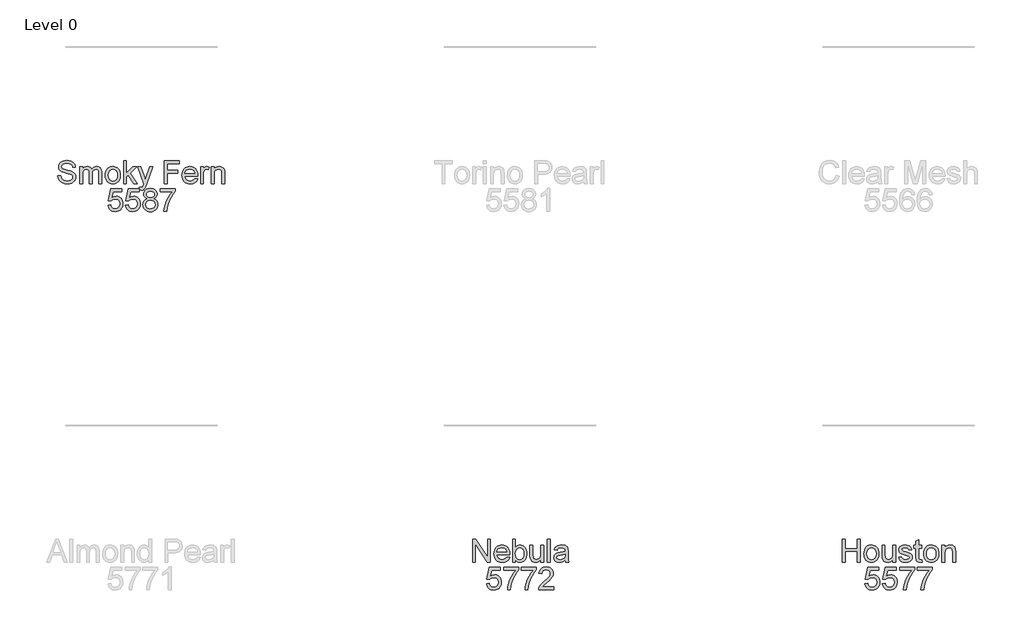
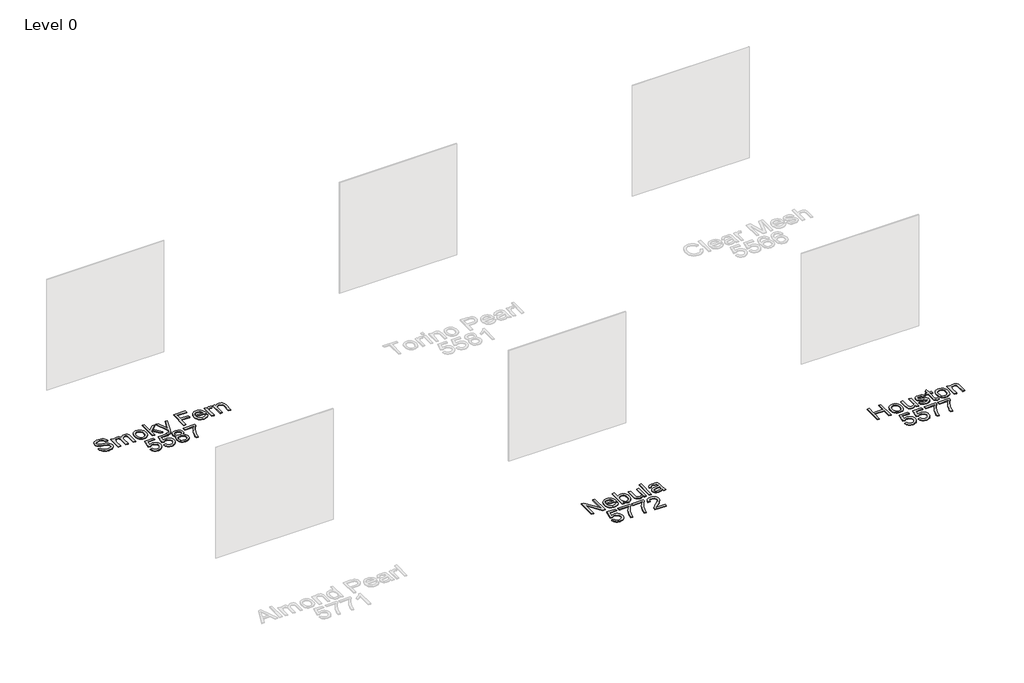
# One storey, part 6 of 8: 3 proxies.
"""IFC4 building model written with IfcOpenShell, lengths in millimetres."""

import ifcopenshell
import ifcopenshell.guid

model = None  # the IFC model being written
_history = None  # IfcOwnerHistory: only IFC2X3 demands one
_inside = {}  # id of a spatial element -> (the spatial element, [elements in it])
_under = {}  # id of a project, library or spatial element -> (it, [spatial elements below it])
_declared = {}  # id of a project -> (the project, [libraries it declares])
_typed = {}  # id of a type object -> (the type object, [elements of that type])
_made_of = {}  # id of a material, layer set ... -> (it, [elements and type objects made of it])


def new_model(schema):
    """Start an empty IFC model of exactly this schema.

    Asked for "IFC4X3", IfcOpenShell would pick the latest addendum, in which some entities
    have other attributes; the version numbers below select the first issue.
    IFC2X3 requires an IfcOwnerHistory on every rooted entity: one is made here for all.
    """
    global model, _history
    if schema == "IFC4X3":
        model = ifcopenshell.file(schema_version=(4, 3, 0, 0))
    else:
        model = ifcopenshell.file(schema=schema)
    _inside.clear()
    _under.clear()
    _declared.clear()
    _typed.clear()
    _made_of.clear()
    _history = None
    if model.schema == "IFC2X3":
        org = make("IfcOrganization", Name="unknown")
        user = make(
            "IfcPersonAndOrganization",
            ThePerson=make("IfcPerson", FamilyName="unknown"),
            TheOrganization=org,
        )
        app = make(
            "IfcApplication",
            ApplicationDeveloper=org,
            Version="unknown",
            ApplicationFullName="unknown",
            ApplicationIdentifier="unknown",
        )
        _history = make(
            "IfcOwnerHistory",
            OwningUser=user,
            OwningApplication=app,
            ChangeAction="ADDED",
            CreationDate=0,
        )
    return model


def make(cls, **values):
    """One entity of the class cls with the attributes given. An attribute that is None is left unset."""
    return model.create_entity(
        cls, **{name: value for name, value in values.items() if value is not None}
    )


def rooted(cls, **values):
    """An entity with a GlobalId (a new one), such as an element, a storey or a relation."""
    return make(cls, GlobalId=ifcopenshell.guid.new(), OwnerHistory=_history, **values)


def si_unit(unit_type, name, prefix=None):
    """IfcSIUnit, for example si_unit("LENGTHUNIT", "METRE", prefix="MILLI")."""
    return make("IfcSIUnit", UnitType=unit_type, Prefix=prefix, Name=name)


def assignment(units):
    """IfcUnitAssignment: the units of a project."""
    return None if units is None else make("IfcUnitAssignment", Units=units)


def point(xyz):
    """IfcCartesianPoint."""
    return None if xyz is None else make("IfcCartesianPoint", Coordinates=xyz)


def direction(xyz):
    """IfcDirection."""
    return None if xyz is None else make("IfcDirection", DirectionRatios=xyz)


def frame(location, z_axis=None, x_axis=None):
    """IfcAxis2Placement3D, a coordinate frame: its origin and axes. An axis left out is left unset."""
    return make(
        "IfcAxis2Placement3D",
        Location=point(location),
        Axis=direction(z_axis),
        RefDirection=direction(x_axis),
    )


def origin():
    """The frame at (0, 0, 0) with its axes left unset."""
    return frame((0.0, 0.0, 0.0))


def origin_with_axes():
    """The frame at (0, 0, 0) with the z axis (0, 0, 1) and the x axis (1, 0, 0) written out."""
    return frame((0.0, 0.0, 0.0), z_axis=(0.0, 0.0, 1.0), x_axis=(1.0, 0.0, 0.0))


def place(relative_to, where):
    """IfcLocalPlacement: puts the frame where relative to a parent placement (None: the world)."""
    return make(
        "IfcLocalPlacement", PlacementRelTo=relative_to, RelativePlacement=where
    )


def context(
    kind, dimensions, precision=None, world=None, true_north=None, identifier=None
):
    """IfcGeometricRepresentationContext, for example the 3D "Model" context."""
    return make(
        "IfcGeometricRepresentationContext",
        ContextIdentifier=identifier,
        ContextType=kind,
        CoordinateSpaceDimension=dimensions,
        Precision=precision,
        WorldCoordinateSystem=world,
        TrueNorth=true_north,
    )


def project(units=None, contexts=None):
    """IfcProject with its units and contexts."""
    return rooted(
        "IfcProject",
        Name="project",
        RepresentationContexts=contexts,
        UnitsInContext=assignment(units),
    )


def spatial(cls, under=None, at=None, **own):
    """A site, building, storey or space (cls), placed at a placement, below another one or the project."""
    s = rooted(cls, ObjectPlacement=at, **own)
    if under is not None:
        _under.setdefault(under.id(), (under, []))[1].append(s)
    return s


def polyline(points):
    """IfcPolyline through the points."""
    return make("IfcPolyline", Points=[point(p) for p in points])


def outline(outer, holes=None, kind="AREA"):
    """IfcArbitraryClosedProfileDef: a profile drawn as a closed curve; with holes, ...WithVoids."""
    if holes is None:
        return make("IfcArbitraryClosedProfileDef", ProfileType=kind, OuterCurve=outer)
    return make(
        "IfcArbitraryProfileDefWithVoids",
        ProfileType=kind,
        OuterCurve=outer,
        InnerCurves=holes,
    )


def extrude(swept, where, along, depth):
    """IfcExtrudedAreaSolid: the profile swept, set in the frame where, extruded along a direction by depth."""
    return make(
        "IfcExtrudedAreaSolid",
        SweptArea=swept,
        Position=where,
        ExtrudedDirection=direction(along),
        Depth=depth,
    )


def shape(context_of_items, identifier, shape_type, items):
    """IfcShapeRepresentation: the items that make up one representation, for example the "Body"."""
    return make(
        "IfcShapeRepresentation",
        ContextOfItems=context_of_items,
        RepresentationIdentifier=identifier,
        RepresentationType=shape_type,
        Items=items,
    )


def made_of(thing, what):
    """Note that an element or type object is made of a material, layer set ...; save() writes the relation."""
    if what is not None:
        _made_of.setdefault(what.id(), (what, []))[1].append(thing)
    return thing


def element(
    cls,
    number,
    at=None,
    inside=None,
    cuts=None,
    type_object=None,
    material=None,
    context=None,
    identifier="Body",
    shape_type=None,
    held_by="IfcProductDefinitionShape",
    body=None,
    shapes=None,
    **own,
):
    """One element of the class cls, such as IfcWall. Its Tag is "e" and its number.

    at: its placement. inside: the storey or other place that contains it. cuts: it is an
    opening in that element (IfcRelVoidsElement). A single representation is given by context,
    identifier, shape_type and body (its items); several are given by shapes. held_by: the class
    of the entity that holds the representations. save() writes the other relations.
    """
    e = rooted(cls, Tag="e%d" % number, ObjectPlacement=at, **own)
    if body is not None:
        shapes = [shape(context, identifier, shape_type, body)]
    if shapes is not None:
        e.Representation = make(held_by, Representations=shapes)
    if inside is not None:
        _inside.setdefault(inside.id(), (inside, []))[1].append(e)
    if cuts is not None:
        rooted(
            "IfcRelVoidsElement", RelatingBuildingElement=cuts, RelatedOpeningElement=e
        )
    if type_object is not None:
        _typed.setdefault(type_object.id(), (type_object, []))[1].append(e)
    return made_of(e, material)


def aggregate(whole, parts):
    """IfcRelAggregates: a whole, such as a stair, and the parts it consists of."""
    return rooted("IfcRelAggregates", RelatingObject=whole, RelatedObjects=parts)


def save(model, path):
    """Write the relations noted so far, then the file.

    IfcRelAggregates (storeys below a building ...), IfcRelContainedInSpatialStructure (elements
    in a storey), IfcRelDefinesByType, IfcRelAssociatesMaterial and IfcRelDeclares: one each for
    every whole, place, type object, material and project.
    """
    for whole, parts in _under.values():
        aggregate(whole, parts)
    for where, things in _inside.values():
        rooted(
            "IfcRelContainedInSpatialStructure",
            RelatedElements=things,
            RelatingStructure=where,
        )
    for kind, things in _typed.values():
        rooted("IfcRelDefinesByType", RelatedObjects=things, RelatingType=kind)
    for what, things in _made_of.values():
        rooted("IfcRelAssociatesMaterial", RelatedObjects=things, RelatingMaterial=what)
    for by, libraries in _declared.values():
        rooted("IfcRelDeclares", RelatingContext=by, RelatedDefinitions=libraries)
    model.write(path)


model = new_model("IFC4")

# Units and contexts
model_context = context("Model", 3, world=origin())
ifc_project = project(units=[si_unit("LENGTHUNIT", "METRE", prefix="MILLI")], contexts=[model_context])

# Site, building, storey
site = spatial("IfcSite", under=ifc_project)
building = spatial("IfcBuilding", under=site)
storey = spatial("IfcBuildingStorey", under=building, Name="Level 0", Elevation=0.0)

# Proxies
placement = place(None, origin())
element("IfcBuildingElementProxy", 1, Name="300mm Arial", ObjectType="300mm Arial", at=placement, inside=storey, context=model_context, shape_type="SweptSolid", body=[
    extrude(outline(polyline([(9805.3373966, -12002.860494), (9805.3373966, -11701.4915635), (9843.008513, -11701.4915635), (9843.008513, -11823.9226915), (10003.1107573, -11823.9226915), (10003.1107573, -11701.4915635), (10040.7818736, -11701.4915635), (10040.7818736, -12002.860494), (10003.1107573, -12002.860494), (10003.1107573, -11861.5938078), (9843.008513, -11861.5938078), (9843.008513, -12002.860494), (9805.3373966, -12002.860494)])), origin_with_axes(), (0.0, 0.0, 1.0), 10.0),
    extrude(outline(polyline([(10092.5796585, -11892.2015898), (10094.616805, -11863.5389839), (10100.7282447, -11838.8403064), (10110.9139774, -11818.1055575), (10125.1740033, -11801.334737), (10139.5305981, -11790.6155754), (10155.3771151, -11782.9590314), (10172.7135541, -11778.3651049), (10191.5399152, -11776.8337961), (10212.3229486, -11778.698498), (10231.1148208, -11784.2926036), (10247.9155317, -11793.6161129), (10262.7250813, -11806.669026), (10274.8123041, -11823.0098843), (10283.4460346, -11842.1972296), (10288.626273, -11864.2310619), (10290.3530191, -11889.1113811), (10287.2995985, -11927.1687735), (10278.1393368, -11956.1394806), (10263.1389485, -11977.8353213), (10242.5651479, -11994.0681143), (10218.1285864, -12004.1940662), (10191.5399152, -12007.5693835), (10170.4533791, -12005.7115794), (10151.486763, -12000.1381672), (10134.6400668, -11990.8491468), (10119.9132907, -11977.8445183), (10107.9548266, -11961.3450108), (10099.4130665, -11941.5713536), (10094.2880105, -11918.5235466), (10092.5796585, -11892.2015898)]), holes=[polyline([(10130.2507748, -11892.1280134), (10134.6101764, -11926.2214773), (10147.6883814, -11950.5108861), (10167.3700681, -11965.0514219), (10191.5399152, -11969.8982672), (10215.5993977, -11965.0238308), (10235.2442962, -11950.4005215), (10248.3225011, -11925.789216), (10252.6819028, -11890.950791), (10248.29491, -11857.8506085), (10235.1339316, -11833.8922936), (10215.4614419, -11819.3517577), (10191.5399152, -11814.5049125), (10167.3700681, -11819.3333636), (10147.6883814, -11833.8187172), (10134.6101764, -11858.0529436), (10130.2507748, -11892.1280134)])]), origin_with_axes(), (0.0, 0.0, 1.0), 10.0),
    extrude(outline(polyline([(10473.9997111, -12002.860494), (10473.9997111, -11964.8214957), (10460.3696832, -11983.5236966), (10444.4955751, -11996.8824116), (10426.3773868, -12004.8976405), (10406.0151184, -12007.5693835), (10387.6670039, -12005.6931853), (10370.5880822, -12000.0645908), (10356.2590785, -11991.6033049), (10346.1607178, -11981.2290327), (10334.9403169, -11953.4907302), (10332.7330249, -11918.4683643), (10332.7330249, -11781.5426857), (10370.4041412, -11781.5426857), (10370.4041412, -11900.7364521), (10372.6850096, -11939.1433324), (10378.1756484, -11951.9548229), (10387.5842304, -11961.6944987), (10400.2853563, -11967.8473251), (10415.6536266, -11969.8982672), (10431.9048138, -11967.8013398), (10447.1075372, -11961.5105577), (10459.6431162, -11951.605335), (10467.89287, -11938.6650858), (10472.4730008, -11920.9423707), (10473.9997111, -11896.6897502), (10473.9997111, -11781.5426857), (10511.6708274, -11781.5426857), (10511.6708274, -12002.860494), (10473.9997111, -12002.860494)])), origin_with_axes(), (0.0, 0.0, 1.0), 10.0),
    extrude(outline(polyline([(10549.3419437, -11936.9360404), (10587.01306, -11932.2271509), (10592.9543542, -11948.3403823), (10604.4506666, -11960.1861825), (10621.5755734, -11967.470246), (10644.4026512, -11969.8982672), (10666.9538176, -11967.6725811), (10682.8095315, -11960.9955229), (10692.1905224, -11951.3202265), (10695.3175194, -11940.0998256), (10692.1721283, -11930.4981055), (10682.7359551, -11923.1772538), (10643.9611929, -11912.4350996), (10587.2337892, -11894.0042116), (10572.8771943, -11884.7427824), (10562.4753309, -11872.4831149), (10556.1569577, -11858.0069584), (10554.0508332, -11842.0960621), (10555.7430904, -11827.5003439), (10560.8198619, -11814.0266659), (10568.8212953, -11802.2084568), (10579.2875381, -11792.5791455), (10603.236656, -11781.4323211), (10635.6470598, -11776.8337961), (10660.1663947, -11778.6824032), (10681.4851564, -11784.2282242), (10698.6284573, -11792.9286334), (10710.6214104, -11804.2410048), (10718.5676615, -11819.0022698), (10723.5708566, -11838.0493601), (10685.8997403, -11842.7582497), (10681.1448655, -11830.9032524), (10671.7362835, -11821.972917), (10657.5820237, -11816.3719136), (10638.5901157, -11814.5049125), (10616.9586544, -11816.2891401), (10602.5376802, -11821.6418232), (10594.4258822, -11829.3673451), (10591.7219495, -11838.2700893), (10596.2101099, -11849.2329728), (10610.2632021, -11857.5471059), (10642.7103941, -11865.5669334), (10698.0030579, -11883.2988455), (10712.6079732, -11891.7785255), (10723.6812212, -11903.3852025), (10730.6617821, -11918.1556646), (10732.9886357, -11936.1267001), (10730.2571119, -11954.7047408), (10722.0625404, -11972.1791356), (10708.7176211, -11987.1795239), (10690.5350534, -11998.3355454), (10668.5724983, -12005.260924), (10643.8876165, -12007.5693835), (10605.9038005, -12003.1180114), (10578.1838921, -11989.763895), (10559.6794278, -11967.654187), (10549.3419437, -11936.9360404)])), origin_with_axes(), (0.0, 0.0, 1.0), 10.0),
    extrude(outline(polyline([(10855.4197637, -11971.4433716), (10860.1286532, -12003.96414), (10831.9488924, -12007.5693835), (10813.8674923, -12006.005885), (10800.3846172, -12001.3153896), (10790.8564735, -11994.0865084), (10784.6392678, -11984.9078526), (10781.2179653, -11969.1441091), (10780.0775311, -11942.1599648), (10780.0775311, -11819.213802), (10751.8241938, -11819.213802), (10751.8241938, -11781.5426857), (10780.0775311, -11781.5426857), (10780.0775311, -11727.758338), (10817.7486474, -11705.6118419), (10817.7486474, -11781.5426857), (10855.4197637, -11781.5426857), (10855.4197637, -11819.213802), (10817.7486474, -11819.213802), (10817.7486474, -11941.0563188), (10819.7352101, -11960.4804881), (10826.1731451, -11967.3598814), (10839.0122267, -11969.8982672), (10855.4197637, -11971.4433716)])), origin_with_axes(), (0.0, 0.0, 1.0), 10.0),
    extrude(outline(polyline([(10883.6731009, -11892.2015898), (10885.7102475, -11863.5389839), (10891.8216871, -11838.8403064), (10902.0074198, -11818.1055575), (10916.2674457, -11801.334737), (10930.6240405, -11790.6155754), (10946.4705575, -11782.9590314), (10963.8069965, -11778.3651049), (10982.6333576, -11776.8337961), (11003.4163911, -11778.698498), (11022.2082632, -11784.2926036), (11039.0089741, -11793.6161129), (11053.8185237, -11806.669026), (11065.9057465, -11823.0098843), (11074.5394771, -11842.1972296), (11079.7197154, -11864.2310619), (11081.4464615, -11889.1113811), (11078.393041, -11927.1687735), (11069.2327793, -11956.1394806), (11054.2323909, -11977.8353213), (11033.6585903, -11994.0681143), (11009.2220288, -12004.1940662), (10982.6333576, -12007.5693835), (10961.5468215, -12005.7115794), (10942.5802054, -12000.1381672), (10925.7335093, -11990.8491468), (10911.0067332, -11977.8445183), (10899.048269, -11961.3450108), (10890.506509, -11941.5713536), (10885.3814529, -11918.5235466), (10883.6731009, -11892.2015898)]), holes=[polyline([(10921.3442172, -11892.1280134), (10925.7036189, -11926.2214773), (10938.7818238, -11950.5108861), (10958.4635105, -11965.0514219), (10982.6333576, -11969.8982672), (11006.6928401, -11965.0238308), (11026.3377386, -11950.4005215), (11039.4159436, -11925.789216), (11043.7753452, -11890.950791), (11039.3883524, -11857.8506085), (11026.227374, -11833.8922936), (11006.5548843, -11819.3517577), (10982.6333576, -11814.5049125), (10958.4635105, -11819.3333636), (10938.7818238, -11833.8187172), (10925.7036189, -11858.0529436), (10921.3442172, -11892.1280134)])]), origin_with_axes(), (0.0, 0.0, 1.0), 10.0),
    extrude(outline(polyline([(11123.8264674, -12002.860494), (11123.8264674, -11781.5426857), (11161.4975837, -11781.5426857), (11161.4975837, -11812.4447733), (11174.5849856, -11796.8649708), (11190.3027439, -11785.7365404), (11208.6508584, -11779.0594822), (11229.6293292, -11776.8337961), (11248.1981729, -11778.6272209), (11265.2035181, -11784.0074951), (11279.385369, -11792.303234), (11289.4837298, -11802.8430532), (11300.777707, -11830.5445674), (11302.7642698, -11866.964885), (11302.7642698, -12002.860494), (11265.0931535, -12002.860494), (11265.0931535, -11872.0416565), (11260.752146, -11838.7115477), (11254.7464724, -11828.7879309), (11245.4114668, -11821.0900002), (11233.4461049, -11816.1511844), (11219.5493625, -11814.5049125), (11197.4856398, -11818.2021265), (11178.6776728, -11829.2937687), (11171.1613838, -11838.3482643), (11165.792606, -11850.7228949), (11161.4975837, -11885.4325611), (11161.4975837, -12002.860494), (11123.8264674, -12002.860494)])), origin_with_axes(), (0.0, 0.0, 1.0), 10.0),
    extrude(outline(polyline([(10106.7063271, -12288.7338254), (10144.3774434, -12284.0249358), (10151.2936249, -12306.6404815), (10163.3601544, -12322.8364863), (10180.5218494, -12332.5761621), (10202.7235278, -12335.8227207), (10229.7260663, -12331.3069693), (10249.959576, -12317.7597148), (10262.5963226, -12296.7444558), (10266.8085714, -12269.8246908), (10262.863037, -12244.4776213), (10251.0264338, -12225.0902402), (10231.2067913, -12212.7845875), (10203.312139, -12208.6827032), (10185.0376009, -12210.3197781), (10170.2395477, -12215.2310027), (10149.0863329, -12232.2271509), (10111.4152166, -12227.5182614), (10144.3774434, -12072.1249066), (10290.3530191, -12072.1249066), (10290.3530191, -12109.7960229), (10174.8380726, -12109.7960229), (10158.7248412, -12192.790201), (10185.6354092, -12176.4562404), (10213.8335641, -12171.0115869), (10232.1793793, -12172.6992456), (10249.030674, -12177.7622215), (10264.387448, -12186.2005148), (10278.2497014, -12198.0141254), (10289.7253204, -12212.4810848), (10297.9221911, -12228.8794248), (10302.8403136, -12247.2091452), (10304.4796877, -12267.470246), (10298.5751817, -12305.1413624), (10291.1945492, -12321.9351754), (10280.8616636, -12337.3678251), (10265.2082847, -12353.1729553), (10246.9429437, -12364.4623341), (10226.0656404, -12371.2359613), (10202.576375, -12373.4938371), (10165.5766434, -12367.6904986), (10149.8979726, -12360.4363255), (10136.1000985, -12350.2804832), (10124.619881, -12337.7288093), (10115.8941799, -12323.2871418), (10106.7063271, -12288.7338254)])), origin_with_axes(), (0.0, 0.0, 1.0), 10.0),
    extrude(outline(polyline([(10337.4419145, -12288.7338254), (10375.1130308, -12284.0249358), (10382.0292123, -12306.6404815), (10394.0957417, -12322.8364863), (10411.2574368, -12332.5761621), (10433.4591152, -12335.8227207), (10460.4616537, -12331.3069693), (10480.6951634, -12317.7597148), (10493.3319099, -12296.7444558), (10497.5441588, -12269.8246908), (10493.5986244, -12244.4776213), (10481.7620212, -12225.0902402), (10461.9423787, -12212.7845875), (10434.0477264, -12208.6827032), (10415.7731883, -12210.3197781), (10400.975135, -12215.2310027), (10379.8219203, -12232.2271509), (10342.150804, -12227.5182614), (10375.1130308, -12072.1249066), (10521.0886065, -12072.1249066), (10521.0886065, -12109.7960229), (10405.57366, -12109.7960229), (10389.4604286, -12192.790201), (10416.3709965, -12176.4562404), (10444.5691515, -12171.0115869), (10462.9149667, -12172.6992456), (10479.7662614, -12177.7622215), (10495.1230354, -12186.2005148), (10508.9852888, -12198.0141254), (10520.4609078, -12212.4810848), (10528.6577785, -12228.8794248), (10533.5759009, -12247.2091452), (10535.2152751, -12267.470246), (10529.3107691, -12305.1413624), (10521.9301365, -12321.9351754), (10511.597251, -12337.3678251), (10495.9438721, -12353.1729553), (10477.678531, -12364.4623341), (10456.8012278, -12371.2359613), (10433.3119624, -12373.4938371), (10396.3122307, -12367.6904986), (10380.63356, -12360.4363255), (10366.8356859, -12350.2804832), (10355.3554684, -12337.7288093), (10346.6297673, -12323.2871418), (10337.4419145, -12288.7338254)])), origin_with_axes(), (0.0, 0.0, 1.0), 10.0),
    extrude(outline(polyline([(10568.1775018, -12109.7960229), (10568.1775018, -12072.1249066), (10765.9508625, -12072.1249066), (10765.9508625, -12102.5855358), (10737.7619046, -12138.2608923), (10709.8488582, -12183.6299393), (10685.2283557, -12234.5540045), (10666.9170294, -12286.8944154), (10657.9407087, -12326.0554538), (10652.9375135, -12368.7849475), (10615.2663972, -12368.7849475), (10619.3406903, -12329.9550029), (10630.2391944, -12283.8042066), (10647.667604, -12234.8850983), (10671.3316133, -12187.7502177), (10698.9595511, -12145.1402856), (10728.2797461, -12109.7960229), (10568.1775018, -12109.7960229)])), origin_with_axes(), (0.0, 0.0, 1.0), 10.0),
    extrude(outline(polyline([(10798.9130892, -12109.7960229), (10798.9130892, -12072.1249066), (10996.6864498, -12072.1249066), (10996.6864498, -12102.5855358), (10968.4974919, -12138.2608923), (10940.5844456, -12183.6299393), (10915.963943, -12234.5540045), (10897.6526167, -12286.8944154), (10888.676296, -12326.0554538), (10883.6731009, -12368.7849475), (10846.0019846, -12368.7849475), (10850.0762777, -12329.9550029), (10860.9747818, -12283.8042066), (10878.4031913, -12234.8850983), (10902.0672007, -12187.7502177), (10929.6951385, -12145.1402856), (10959.0153335, -12109.7960229), (10798.9130892, -12109.7960229)])), origin_with_axes(), (0.0, 0.0, 1.0), 10.0),
])
element("IfcBuildingElementProxy", 2, Name="300mm Arial", ObjectType="300mm Arial", at=placement, inside=storey, context=model_context, shape_type="SweptSolid", body=[
    extrude(outline(polyline([(-554.892653, -6899.2649241), (-517.2215367, -6899.2649241), (-512.8989233, -6920.1698185), (-505.0814309, -6936.9728286), (-492.8861427, -6950.308551), (-475.4301421, -6960.8115819), (-454.0929864, -6967.6265959), (-430.2542331, -6969.8982672), (-409.2665652, -6968.1784189), (-390.8908596, -6963.0188739), (-376.0008358, -6954.8518936), (-365.4702137, -6944.1097394), (-359.2070227, -6931.7764955), (-357.1192924, -6918.8362463), (-358.6827909, -6906.2270909), (-363.3732863, -6895.3285868), (-372.90143, -6886.0303694), (-388.9778732, -6878.222074), (-443.8290787, -6863.837888), (-479.835529, -6854.3189414), (-502.8741389, -6845.2598472), (-521.6269236, -6832.5863125), (-534.9166607, -6817.2272392), (-542.8353206, -6799.5137211), (-545.474874, -6779.7768521), (-542.2099212, -6757.7131294), (-532.4150631, -6737.1393289), (-516.347817, -6719.7017223), (-494.2657002, -6707.0465817), (-467.7598025, -6699.3486509), (-438.4212134, -6696.782674), (-406.636209, -6699.4682126), (-378.8243301, -6707.5248283), (-355.9788582, -6720.7869742), (-339.0930747, -6739.0891034), (-328.4061027, -6761.2907818), (-324.1570657, -6786.2515752), (-361.828182, -6786.2515752), (-368.7443635, -6763.7739853), (-383.1653377, -6747.5503893), (-405.6981099, -6737.7279401), (-436.9496854, -6734.4537903), (-468.9370249, -6737.6911519), (-490.8811859, -6747.4032365), (-503.5731147, -6761.695452), (-507.8037576, -6778.6732061), (-504.8055194, -6793.1493626), (-495.8108046, -6804.7928278), (-474.5472253, -6815.2038882), (-434.300935, -6825.8356779), (-392.7670578, -6835.9340387), (-367.6407175, -6844.7448125), (-346.165606, -6858.4116286), (-331.1836118, -6875.2790181), (-322.382035, -6895.1630399), (-319.4481761, -6917.8797531), (-322.8234934, -6941.102304), (-332.9494453, -6962.9452975), (-349.4121646, -6981.7440675), (-371.797784, -6995.8339479), (-398.717549, -7004.6355246), (-428.7827051, -7007.5693835), (-465.6904662, -7004.4055984), (-496.068322, -6994.9142429), (-520.2657602, -6979.0585289), (-538.6322688, -6956.8016682), (-550.4228868, -6929.6887651), (-554.892653, -6899.2649241)])), origin_with_axes(), (0.0, 0.0, 1.0), 10.0),
    extrude(outline(polyline([(-267.6503912, -7002.860494), (-267.6503912, -6781.5426857), (-229.9792749, -6781.5426857), (-229.9792749, -6817.9630032), (-218.6485094, -6801.2335695), (-204.0803824, -6788.1277734), (-186.7715346, -6779.6572905), (-167.2186065, -6776.8337961), (-146.2677269, -6779.7124728), (-129.4739138, -6788.3485026), (-116.9291378, -6802.1716686), (-108.7253693, -6820.6117536), (-94.9941738, -6801.4588972), (-79.3315979, -6787.7782855), (-61.7376414, -6779.5699185), (-42.2123046, -6776.8337961), (-13.894588, -6781.3863358), (7.0470946, -6795.0439549), (19.9873438, -6818.1745354), (24.3007602, -6851.1459592), (24.3007602, -7002.860494), (-13.3703561, -7002.860494), (-13.3703561, -6867.332767), (-16.8652351, -6835.8788564), (-21.7764597, -6827.2060383), (-29.5203757, -6820.3910244), (-39.4807807, -6815.9764404), (-51.0414724, -6814.5049125), (-71.4497261, -6818.2757029), (-88.0871894, -6829.5880743), (-99.1512404, -6849.2145787), (-102.8392574, -6877.9277684), (-102.8392574, -7002.860494), (-140.5103737, -7002.860494), (-140.5103737, -6863.1389122), (-142.6900745, -6841.8385447), (-149.2291769, -6826.6450183), (-160.7346863, -6817.5399389), (-177.813608, -6814.5049125), (-192.3265527, -6816.5282634), (-205.6990632, -6822.5983163), (-216.7355231, -6832.5679184), (-224.2403158, -6846.2899168), (-228.5445351, -6865.3278101), (-229.9792749, -6891.2450966), (-229.9792749, -7002.860494), (-267.6503912, -7002.860494)])), origin_with_axes(), (0.0, 0.0, 1.0), 10.0),
    extrude(outline(polyline([(71.3896556, -6892.2015898), (73.4268021, -6863.5389839), (79.5382418, -6838.8403064), (89.7239745, -6818.1055575), (103.9840003, -6801.334737), (118.3405952, -6790.6155754), (134.1871121, -6782.9590314), (151.5235512, -6778.3651049), (170.3499123, -6776.8337961), (191.1329457, -6778.698498), (209.9248179, -6784.2926036), (226.7255288, -6793.6161129), (241.5350783, -6806.669026), (253.6223011, -6823.0098843), (262.2560317, -6842.1972296), (267.4362701, -6864.2310619), (269.1630162, -6889.1113811), (266.1095956, -6927.1687735), (256.9493339, -6956.1394806), (241.9489456, -6977.8353213), (221.375145, -6994.0681143), (196.9385835, -7004.1940662), (170.3499123, -7007.5693835), (149.2633762, -7005.7115794), (130.29676, -7000.1381672), (113.4500639, -6990.8491468), (98.7232878, -6977.8445183), (86.7648237, -6961.3450108), (78.2230636, -6941.5713536), (73.0980076, -6918.5235466), (71.3896556, -6892.2015898)]), holes=[polyline([(109.0607719, -6892.1280134), (113.4201735, -6926.2214773), (126.4983784, -6950.5108861), (146.1800652, -6965.0514219), (170.3499123, -6969.8982672), (194.4093947, -6965.0238308), (214.0542933, -6950.4005215), (227.1324982, -6925.789216), (231.4918999, -6890.950791), (227.1049071, -6857.8506085), (213.9439287, -6833.8922936), (194.271439, -6819.3517577), (170.3499123, -6814.5049125), (146.1800652, -6819.3333636), (126.4983784, -6833.8187172), (113.4201735, -6858.0529436), (109.0607719, -6892.1280134)])]), origin_with_axes(), (0.0, 0.0, 1.0), 10.0),
    extrude(outline(polyline([(311.543022, -7002.860494), (311.543022, -6701.4915635), (349.2141383, -6701.4915635), (349.2141383, -6863.4332178), (433.6798444, -6781.5426857), (485.7719349, -6781.5426857), (400.2761592, -6864.4632874), (490.4808245, -7002.860494), (446.4821378, -7002.860494), (373.2736208, -6890.6564855), (349.2141383, -6913.9802039), (349.2141383, -7002.860494), (311.543022, -7002.860494)])), origin_with_axes(), (0.0, 0.0, 1.0), 10.0),
    extrude(outline(polyline([(523.4430512, -7087.6205057), (518.7341617, -7051.3473409), (537.8640254, -7054.6582789), (555.7430904, -7050.5012124), (566.7059739, -7038.9129295), (577.0066697, -7011.1746271), (579.9497257, -7002.0511536), (499.8986035, -6781.5426857), (539.629859, -6781.5426857), (582.0834413, -6904.4152721), (596.8722975, -6953.5643066), (611.6611537, -6910.1542312), (655.2919583, -6781.5426857), (694.7289082, -6781.5426857), (617.6944184, -7008.1579947), (597.6816379, -7057.3070293), (587.4361243, -7072.9971964), (575.8294473, -7083.8681093), (562.3465722, -7090.2140737), (546.4724641, -7092.3293952), (523.4430512, -7087.6205057)])), origin_with_axes(), (0.0, 0.0, 1.0), 10.0),
    extrude(outline(polyline([(848.3564294, -7002.860494), (848.3564294, -6701.4915635), (1050.8386795, -6701.4915635), (1050.8386795, -6739.1626798), (886.0275457, -6739.1626798), (886.0275457, -6828.6315811), (1027.2942318, -6828.6315811), (1027.2942318, -6866.3026974), (886.0275457, -6866.3026974), (886.0275457, -7002.860494), (848.3564294, -7002.860494)])), origin_with_axes(), (0.0, 0.0, 1.0), 10.0),
    extrude(outline(polyline([(1252.8794713, -6936.9360404), (1289.8148236, -6941.64493), (1276.5066924, -6969.4752029), (1255.2707042, -6990.2789297), (1226.5851057, -7003.2467701), (1190.9281433, -7007.5693835), (1167.553841, -7005.7046817), (1146.7271216, -7000.1105761), (1128.4479849, -6990.7870668), (1112.7164311, -6977.7341537), (1100.065889, -6961.3151204), (1091.0297875, -6941.8932503), (1085.6081266, -6919.4685435), (1083.8009063, -6894.0409998), (1085.6265207, -6867.7512327), (1091.1033639, -6844.5792656), (1100.2314359, -6824.5250983), (1113.0107367, -6807.5887309), (1128.7009038, -6794.133447), (1146.5615747, -6784.5225298), (1166.5927493, -6778.7559796), (1188.7944277, -6776.8337961), (1210.2810355, -6778.751381), (1229.7121026, -6784.5041357), (1247.0876291, -6794.0920602), (1262.4076149, -6807.5151545), (1274.9133035, -6824.4147337), (1283.8459382, -6844.4321128), (1289.205519, -6867.5672917), (1290.992046, -6893.8202706), (1290.7713168, -6903.9738137), (1121.4720226, -6903.9738137), (1127.992731, -6932.1719686), (1143.1402721, -6952.902119), (1165.0016597, -6965.6492302), (1191.6639073, -6969.8982672), (1211.713476, -6967.9300985), (1228.5992596, -6962.0255925), (1242.321258, -6951.8168672), (1252.8794713, -6936.9360404)]), holes=[polyline([(1121.4720226, -6866.3026974), (1253.3209297, -6866.3026974), (1248.225764, -6846.4002814), (1238.2377679, -6832.1632482), (1216.2752127, -6818.9194964), (1188.6472749, -6814.5049125), (1163.2542202, -6818.0273826), (1142.2573553, -6828.5947929), (1127.6616372, -6845.0667092), (1121.4720226, -6866.3026974)])]), origin_with_axes(), (0.0, 0.0, 1.0), 10.0),
    extrude(outline(polyline([(1328.6631623, -7002.860494), (1328.6631623, -6781.5426857), (1361.625389, -6781.5426857), (1361.625389, -6814.2841833), (1373.8022831, -6795.3014723), (1385.0226839, -6784.1178596), (1396.279873, -6778.654812), (1408.5671316, -6776.8337961), (1427.3291134, -6779.7400639), (1446.3854007, -6788.4588672), (1433.8038365, -6822.2304343), (1420.5600847, -6816.4362929), (1407.3163328, -6814.5049125), (1396.0683408, -6816.3627165), (1386.0159653, -6821.9361288), (1377.8949703, -6830.8020848), (1372.4411197, -6842.5375205), (1367.8609889, -6863.5803706), (1366.3342786, -6886.5362071), (1366.3342786, -7002.860494), (1328.6631623, -7002.860494)])), origin_with_axes(), (0.0, 0.0, 1.0), 10.0),
    extrude(outline(polyline([(1469.9298484, -7002.860494), (1469.9298484, -6781.5426857), (1507.6009647, -6781.5426857), (1507.6009647, -6812.4447733), (1520.6883667, -6796.8649708), (1536.406125, -6785.7365404), (1554.7542395, -6779.0594822), (1575.7327102, -6776.8337961), (1594.3015539, -6778.6272209), (1611.3068992, -6784.0074951), (1625.4887501, -6792.303234), (1635.5871109, -6802.8430532), (1646.8810881, -6830.5445674), (1648.8676509, -6866.964885), (1648.8676509, -7002.860494), (1611.1965346, -7002.860494), (1611.1965346, -6872.0416565), (1606.855527, -6838.7115477), (1600.8498535, -6828.7879309), (1591.5148478, -6821.0900002), (1579.5494859, -6816.1511844), (1565.6527436, -6814.5049125), (1543.5890209, -6818.2021265), (1524.7810539, -6829.2937687), (1517.2647649, -6838.3482643), (1511.895987, -6850.7228949), (1507.6009647, -6885.4325611), (1507.6009647, -7002.860494), (1469.9298484, -7002.860494)])), origin_with_axes(), (0.0, 0.0, 1.0), 10.0),
    extrude(outline(polyline([(106.7063271, -7288.7338254), (144.3774434, -7284.0249358), (151.2936249, -7306.6404815), (163.3601544, -7322.8364863), (180.5218494, -7332.5761621), (202.7235278, -7335.8227207), (229.7260663, -7331.3069693), (249.959576, -7317.7597148), (262.5963226, -7296.7444558), (266.8085714, -7269.8246908), (262.863037, -7244.4776213), (251.0264338, -7225.0902402), (231.2067913, -7212.7845875), (203.312139, -7208.6827032), (185.0376009, -7210.3197781), (170.2395477, -7215.2310027), (149.0863329, -7232.2271509), (111.4152166, -7227.5182614), (144.3774434, -7072.1249066), (290.3530191, -7072.1249066), (290.3530191, -7109.7960229), (174.8380726, -7109.7960229), (158.7248412, -7192.790201), (185.6354092, -7176.4562404), (213.8335641, -7171.0115869), (232.1793793, -7172.6992456), (249.030674, -7177.7622215), (264.387448, -7186.2005148), (278.2497014, -7198.0141254), (289.7253204, -7212.4810848), (297.9221911, -7228.8794248), (302.8403136, -7247.2091452), (304.4796877, -7267.470246), (298.5751817, -7305.1413624), (291.1945492, -7321.9351754), (280.8616636, -7337.3678251), (265.2082847, -7353.1729553), (246.9429437, -7364.4623341), (226.0656404, -7371.2359613), (202.576375, -7373.4938371), (165.5766434, -7367.6904986), (149.8979726, -7360.4363255), (136.1000985, -7350.2804832), (124.619881, -7337.7288093), (115.8941799, -7323.2871418), (106.7063271, -7288.7338254)])), origin_with_axes(), (0.0, 0.0, 1.0), 10.0),
    extrude(outline(polyline([(337.4419145, -7288.7338254), (375.1130308, -7284.0249358), (382.0292123, -7306.6404815), (394.0957417, -7322.8364863), (411.2574368, -7332.5761621), (433.4591152, -7335.8227207), (460.4616537, -7331.3069693), (480.6951634, -7317.7597148), (493.3319099, -7296.7444558), (497.5441588, -7269.8246908), (493.5986244, -7244.4776213), (481.7620212, -7225.0902402), (461.9423787, -7212.7845875), (434.0477264, -7208.6827032), (415.7731883, -7210.3197781), (400.975135, -7215.2310027), (379.8219203, -7232.2271509), (342.150804, -7227.5182614), (375.1130308, -7072.1249066), (521.0886065, -7072.1249066), (521.0886065, -7109.7960229), (405.57366, -7109.7960229), (389.4604286, -7192.790201), (416.3709965, -7176.4562404), (444.5691515, -7171.0115869), (462.9149667, -7172.6992456), (479.7662614, -7177.7622215), (495.1230354, -7186.2005148), (508.9852888, -7198.0141254), (520.4609078, -7212.4810848), (528.6577785, -7228.8794248), (533.5759009, -7247.2091452), (535.2152751, -7267.470246), (529.3107691, -7305.1413624), (521.9301365, -7321.9351754), (511.597251, -7337.3678251), (495.9438721, -7353.1729553), (477.678531, -7364.4623341), (456.8012278, -7371.2359613), (433.3119624, -7373.4938371), (396.3122307, -7367.6904986), (380.63356, -7360.4363255), (366.8356859, -7350.2804832), (355.3554684, -7337.7288093), (346.6297673, -7323.2871418), (337.4419145, -7288.7338254)])), origin_with_axes(), (0.0, 0.0, 1.0), 10.0),
    extrude(outline(polyline([(623.0654955, -7202.7965913), (602.8963651, -7192.8637774), (588.7421054, -7179.3992964), (580.381987, -7162.6790597), (577.5952809, -7142.9789789), (579.1127942, -7127.6153071), (583.6653338, -7113.5300252), (591.2529, -7100.7231332), (601.8754926, -7089.1946312), (615.0226754, -7079.6664875), (630.1840121, -7072.8606706), (666.5491474, -7067.4160171), (703.1350118, -7072.9894293), (718.4618954, -7079.9561946), (731.8114133, -7089.709666), (742.627144, -7101.4634957), (750.3526659, -7114.4313361), (754.987979, -7128.613187), (756.5330834, -7144.0090485), (753.7831655, -7163.0745329), (745.5334117, -7179.509661), (731.6918517, -7192.8913686), (712.1665148, -7202.7965913), (735.3522775, -7214.7435591), (752.228864, -7232.3375155), (762.5203628, -7254.732332), (765.9508625, -7281.0818799), (764.2494082, -7299.8714528), (759.1450455, -7317.0975272), (750.6377744, -7332.7601031), (738.7275948, -7346.8591806), (724.0399062, -7358.5118428), (707.2001078, -7366.8351729), (688.2081998, -7371.829171), (667.0641821, -7373.4938371), (645.9201645, -7371.8222732), (626.9282565, -7366.8075818), (610.0884581, -7358.4497627), (595.4007695, -7346.748816), (583.4905899, -7332.5508703), (574.9833188, -7316.702054), (569.8789561, -7299.2023674), (568.1775018, -7280.0518103), (571.7459572, -7252.6813898), (582.4513233, -7230.1670117), (599.741777, -7213.2812282), (623.0654955, -7202.7965913)]), holes=[polyline([(615.2663972, -7144.0826249), (618.6049263, -7160.52695), (628.6205137, -7173.6603373), (645.0188536, -7182.268776), (667.5056405, -7185.1382555), (689.4681957, -7182.2871701), (705.6182152, -7173.7339137), (715.5510291, -7161.0419848), (718.8619671, -7145.774882), (715.4406645, -7129.9283651), (705.1767568, -7116.822569), (688.8060081, -7108.0209923), (667.0641821, -7105.0871334), (645.1844005, -7107.9566129), (628.8412429, -7116.5650516), (618.6601086, -7129.1834041), (615.2663972, -7144.0826249)]), polyline([(605.8486182, -7278.7274351), (612.1394003, -7307.0911369), (620.8490065, -7319.2588339), (634.396261, -7328.317928), (650.619857, -7333.9465226), (667.3584877, -7335.8227207), (692.9998628, -7331.8771864), (712.2400912, -7320.0405832), (724.2698324, -7302.1155329), (728.2797461, -7279.9046575), (724.1410737, -7257.316703), (711.7250564, -7238.9961796), (692.0433696, -7226.8560738), (666.107689, -7222.8093718), (640.8249988, -7226.8008915), (621.7779085, -7238.7754504), (609.8309407, -7256.7464859), (605.8486182, -7278.7274351)])]), origin_with_axes(), (0.0, 0.0, 1.0), 10.0),
    extrude(outline(polyline([(798.9130892, -7109.7960229), (798.9130892, -7072.1249066), (996.6864498, -7072.1249066), (996.6864498, -7102.5855358), (968.4974919, -7138.2608923), (940.5844456, -7183.6299393), (915.963943, -7234.5540045), (897.6526167, -7286.8944154), (888.676296, -7326.0554538), (883.6731009, -7368.7849475), (846.0019846, -7368.7849475), (850.0762777, -7329.9550029), (860.9747818, -7283.8042066), (878.4031913, -7234.8850983), (902.0672007, -7187.7502177), (929.6951385, -7145.1402856), (959.0153335, -7109.7960229), (798.9130892, -7109.7960229)])), origin_with_axes(), (0.0, 0.0, 1.0), 10.0),
])
element("IfcBuildingElementProxy", 3, Name="300mm Arial", ObjectType="300mm Arial", at=placement, inside=storey, context=model_context, shape_type="SweptSolid", body=[
    extrude(outline(polyline([(4923.0596351, -12002.860494), (4923.0596351, -11701.4915635), (4963.3795018, -11701.4915635), (5120.8329957, -11940.2469784), (5120.8329957, -11701.4915635), (5158.504112, -11701.4915635), (5158.504112, -12002.860494), (5118.1842453, -12002.860494), (4960.7307514, -11764.0315027), (4960.7307514, -12002.860494), (4923.0596351, -12002.860494)])), origin_with_axes(), (0.0, 0.0, 1.0), 10.0),
    extrude(outline(polyline([(5374.6715724, -11936.9360404), (5411.6069247, -11941.64493), (5398.2987935, -11969.4752029), (5377.0628054, -11990.2789297), (5348.3772068, -12003.2467701), (5312.7202444, -12007.5693835), (5289.3459421, -12005.7046817), (5268.5192227, -12000.1105761), (5250.240086, -11990.7870668), (5234.5085322, -11977.7341537), (5221.8579901, -11961.3151204), (5212.8218886, -11941.8932503), (5207.4002277, -11919.4685435), (5205.5930074, -11894.0409998), (5207.4186218, -11867.7512327), (5212.895465, -11844.5792656), (5222.023537, -11824.5250983), (5234.8028378, -11807.5887309), (5250.4930049, -11794.133447), (5268.3536758, -11784.5225298), (5288.3848504, -11778.7559796), (5310.5865288, -11776.8337961), (5332.0731366, -11778.751381), (5351.5042037, -11784.5041357), (5368.8797302, -11794.0920602), (5384.1997161, -11807.5151545), (5396.7054046, -11824.4147337), (5405.6380393, -11844.4321128), (5410.9976201, -11867.5672917), (5412.7841471, -11893.8202706), (5412.5634179, -11903.9738137), (5243.2641237, -11903.9738137), (5249.7848321, -11932.1719686), (5264.9323732, -11952.902119), (5286.7937608, -11965.6492302), (5313.4560084, -11969.8982672), (5333.5055771, -11967.9300985), (5350.3913607, -11962.0255925), (5364.1133591, -11951.8168672), (5374.6715724, -11936.9360404)]), holes=[polyline([(5243.2641237, -11866.3026974), (5375.1130308, -11866.3026974), (5370.0178651, -11846.4002814), (5360.029869, -11832.1632482), (5338.0673139, -11818.9194964), (5310.439376, -11814.5049125), (5285.0463213, -11818.0273826), (5264.0494564, -11828.5947929), (5249.4537383, -11845.0667092), (5243.2641237, -11866.3026974)])]), origin_with_axes(), (0.0, 0.0, 1.0), 10.0),
    extrude(outline(polyline([(5488.1263797, -12002.860494), (5450.4552634, -12002.860494), (5450.4552634, -11701.4915635), (5488.1263797, -11701.4915635), (5488.1263797, -11813.2541137), (5500.5148059, -11797.3202248), (5514.5035187, -11785.9388755), (5530.0925183, -11779.110066), (5547.2818045, -11776.8337961), (5566.6875798, -11778.8847383), (5585.0264972, -11785.0375646), (5601.2500932, -11794.9059992), (5614.309904, -11808.1037657), (5624.5462206, -11824.5021057), (5632.2993336, -11843.9722603), (5637.1829671, -11865.7048891), (5638.8108449, -11888.8906519), (5637.1254855, -11915.64487), (5632.0694074, -11939.1801206), (5623.6426104, -11959.4964038), (5611.8450947, -11976.5937195), (5597.6839371, -11990.1455725), (5582.1662147, -11999.8254675), (5565.2919274, -12005.6334045), (5547.0610753, -12007.5693835), (5529.3061705, -12005.0723845), (5513.5654197, -11997.5813874), (5499.8388227, -11985.0963921), (5488.1263797, -11967.6173988), (5488.1263797, -12002.860494)]), holes=[polyline([(5488.1263797, -11890.6564855), (5490.7015537, -11922.0736078), (5498.4270756, -11943.3371872), (5507.5551476, -11954.9576597), (5518.1639446, -11963.2579972), (5530.2534667, -11968.2381997), (5543.8237138, -11969.8982672), (5565.5655397, -11965.0054367), (5584.1435804, -11950.3269451), (5596.8906916, -11925.9547629), (5601.1397286, -11891.9808606), (5597.0654355, -11857.5103177), (5584.8425562, -11833.414047), (5566.8439296, -11819.2321961), (5545.4423945, -11814.5049125), (5523.7005686, -11819.397743), (5505.1225279, -11834.0762346), (5492.3754167, -11858.0069584), (5488.1263797, -11890.6564855)])]), origin_with_axes(), (0.0, 0.0, 1.0), 10.0),
    extrude(outline(polyline([(5822.4575369, -12002.860494), (5822.4575369, -11964.8214957), (5808.827509, -11983.5236966), (5792.9534009, -11996.8824116), (5774.8352126, -12004.8976405), (5754.4729442, -12007.5693835), (5736.1248297, -12005.6931853), (5719.0459081, -12000.0645908), (5704.7169044, -11991.6033049), (5694.6185436, -11981.2290327), (5683.3981427, -11953.4907302), (5681.1908508, -11918.4683643), (5681.1908508, -11781.5426857), (5718.8619671, -11781.5426857), (5718.8619671, -11900.7364521), (5721.1428354, -11939.1433324), (5726.6334742, -11951.9548229), (5736.0420562, -11961.6944987), (5748.7431821, -11967.8473251), (5764.1114525, -11969.8982672), (5780.3626396, -11967.8013398), (5795.5653631, -11961.5105577), (5808.1009421, -11951.605335), (5816.3506958, -11938.6650858), (5820.9308266, -11920.9423707), (5822.4575369, -11896.6897502), (5822.4575369, -11781.5426857), (5860.1286532, -11781.5426857), (5860.1286532, -12002.860494), (5822.4575369, -12002.860494)])), origin_with_axes(), (0.0, 0.0, 1.0), 10.0),
    extrude(outline(polyline([(5911.9264381, -12002.860494), (5911.9264381, -11701.4915635), (5949.5975544, -11701.4915635), (5949.5975544, -12002.860494), (5911.9264381, -12002.860494)])), origin_with_axes(), (0.0, 0.0, 1.0), 10.0),
    extrude(outline(polyline([(6147.3709151, -11974.6071568), (6129.3722884, -11990.0398064), (6110.8402329, -12000.1381672), (6091.3516842, -12005.7115794), (6070.4835781, -12007.5693835), (6039.0020763, -12003.0996173), (6015.7795254, -11989.6903186), (6001.4597187, -11969.3280501), (5996.6864498, -11943.9993748), (5998.4890716, -11928.3827841), (6003.8969369, -11914.2009331), (6012.2386612, -11902.0608273), (6022.8428597, -11892.5694718), (6049.2199987, -11880.2086368), (6081.8143435, -11874.5432541), (6120.3315884, -11868.5835657), (6147.1501859, -11861.5938078), (6147.3709151, -11853.2060983), (6144.777347, -11836.3938912), (6136.9966428, -11825.3942195), (6119.5958244, -11817.2272392), (6095.3524009, -11814.5049125), (6072.9115992, -11816.3167313), (6057.2398262, -11821.7521878), (6046.5528543, -11831.8045633), (6039.0664557, -11847.4671392), (6001.3953394, -11842.7582497), (6007.9344418, -11822.156858), (6017.6925118, -11805.9700502), (6031.5800571, -11793.590821), (6050.5075857, -11784.4121652), (6073.6565603, -11778.7283884), (6100.2084433, -11776.8337961), (6125.6750744, -11778.5076592), (6145.8625989, -11783.5292485), (6161.0837164, -11791.0800264), (6171.6511267, -11800.3414556), (6178.6592787, -11811.7917827), (6183.2026214, -11825.9092543), (6185.0420314, -11858.8714811), (6185.0420314, -11905.7396473), (6186.9550177, -11971.1858542), (6194.4598104, -12002.860494), (6156.7886941, -12002.860494), (6147.3709151, -11974.6071568)]), holes=[polyline([(6147.3709151, -11899.2649241), (6086.5968094, -11910.8164188), (6054.1864057, -11916.9232599), (6039.5079141, -11926.8560738), (6034.3575661, -11941.3506244), (6037.1626663, -11952.5526311), (6045.577967, -11961.7312869), (6059.4195271, -11967.8565221), (6078.5034056, -11969.8982672), (6098.7369153, -11967.64499), (6116.6159803, -11960.8851583), (6131.1105309, -11950.9247533), (6141.1904975, -11939.069756), (6145.6602638, -11926.8560738), (6147.1501859, -11909.933502), (6147.3709151, -11899.2649241)])]), origin_with_axes(), (0.0, 0.0, 1.0), 10.0),
    extrude(outline(polyline([(5106.7063271, -12288.7338254), (5144.3774434, -12284.0249358), (5151.2936249, -12306.6404815), (5163.3601544, -12322.8364863), (5180.5218494, -12332.5761621), (5202.7235278, -12335.8227207), (5229.7260663, -12331.3069693), (5249.959576, -12317.7597148), (5262.5963226, -12296.7444558), (5266.8085714, -12269.8246908), (5262.863037, -12244.4776213), (5251.0264338, -12225.0902402), (5231.2067913, -12212.7845875), (5203.312139, -12208.6827032), (5185.0376009, -12210.3197781), (5170.2395477, -12215.2310027), (5149.0863329, -12232.2271509), (5111.4152166, -12227.5182614), (5144.3774434, -12072.1249066), (5290.3530191, -12072.1249066), (5290.3530191, -12109.7960229), (5174.8380726, -12109.7960229), (5158.7248412, -12192.790201), (5185.6354092, -12176.4562404), (5213.8335641, -12171.0115869), (5232.1793793, -12172.6992456), (5249.030674, -12177.7622215), (5264.387448, -12186.2005148), (5278.2497014, -12198.0141254), (5289.7253204, -12212.4810848), (5297.9221911, -12228.8794248), (5302.8403136, -12247.2091452), (5304.4796877, -12267.470246), (5298.5751817, -12305.1413624), (5291.1945492, -12321.9351754), (5280.8616636, -12337.3678251), (5265.2082847, -12353.1729553), (5246.9429437, -12364.4623341), (5226.0656404, -12371.2359613), (5202.576375, -12373.4938371), (5165.5766434, -12367.6904986), (5149.8979726, -12360.4363255), (5136.1000985, -12350.2804832), (5124.619881, -12337.7288093), (5115.8941799, -12323.2871418), (5106.7063271, -12288.7338254)])), origin_with_axes(), (0.0, 0.0, 1.0), 10.0),
    extrude(outline(polyline([(5337.4419145, -12109.7960229), (5337.4419145, -12072.1249066), (5535.2152751, -12072.1249066), (5535.2152751, -12102.5855358), (5507.0263172, -12138.2608923), (5479.1132708, -12183.6299393), (5454.4927683, -12234.5540045), (5436.181442, -12286.8944154), (5427.2051213, -12326.0554538), (5422.2019262, -12368.7849475), (5384.5308099, -12368.7849475), (5388.605103, -12329.9550029), (5399.5036071, -12283.8042066), (5416.9320166, -12234.8850983), (5440.5960259, -12187.7502177), (5468.2239638, -12145.1402856), (5497.5441588, -12109.7960229), (5337.4419145, -12109.7960229)])), origin_with_axes(), (0.0, 0.0, 1.0), 10.0),
    extrude(outline(polyline([(5568.1775018, -12109.7960229), (5568.1775018, -12072.1249066), (5765.9508625, -12072.1249066), (5765.9508625, -12102.5855358), (5737.7619046, -12138.2608923), (5709.8488582, -12183.6299393), (5685.2283557, -12234.5540045), (5666.9170294, -12286.8944154), (5657.9407087, -12326.0554538), (5652.9375135, -12368.7849475), (5615.2663972, -12368.7849475), (5619.3406903, -12329.9550029), (5630.2391944, -12283.8042066), (5647.667604, -12234.8850983), (5671.3316133, -12187.7502177), (5698.9595511, -12145.1402856), (5728.2797461, -12109.7960229), (5568.1775018, -12109.7960229)])), origin_with_axes(), (0.0, 0.0, 1.0), 10.0),
    extrude(outline(polyline([(5991.9775603, -12331.1138312), (5991.9775603, -12368.7849475), (5794.2041997, -12368.7849475), (5798.2509016, -12342.8124787), (5807.539922, -12322.5145896), (5821.1331617, -12302.8237058), (5840.7964544, -12282.213117), (5868.2956335, -12259.156113), (5908.946594, -12223.0484951), (5933.3371703, -12196.3954446), (5945.5324584, -12174.7639833), (5949.5975544, -12153.7211331), (5945.7623846, -12134.8579838), (5934.2568752, -12119.1770138), (5916.5709483, -12108.6096035), (5894.194526, -12105.0871334), (5870.6960635, -12108.52683), (5852.4399195, -12118.84592), (5840.6584986, -12135.2350629), (5836.5842055, -12156.8849183), (5798.9130892, -12152.1760288), (5808.0457598, -12115.7373171), (5816.5921184, -12101.2013798), (5827.7918258, -12089.1210548), (5841.3873648, -12079.6251008), (5857.1212179, -12072.8422765), (5895.0038664, -12067.4160171), (5915.1936901, -12068.9243332), (5933.1624263, -12073.4492818), (5948.910075, -12080.9908627), (5962.4366361, -12091.549076), (5973.3006512, -12104.3421723), (5981.0606621, -12118.5884026), (5985.7166686, -12134.2877667), (5987.2686708, -12151.4402648), (5985.5948077, -12169.4572855), (5980.5732184, -12187.1616065), (5971.6612771, -12205.1694302), (5958.3163577, -12224.0969588), (5937.0435814, -12246.6941104), (5904.348069, -12275.7108027), (5861.01157, -12311.9471793), (5844.0154218, -12331.1138312), (5991.9775603, -12331.1138312)])), origin_with_axes(), (0.0, 0.0, 1.0), 10.0),
])

save(model, "model.ifc")
